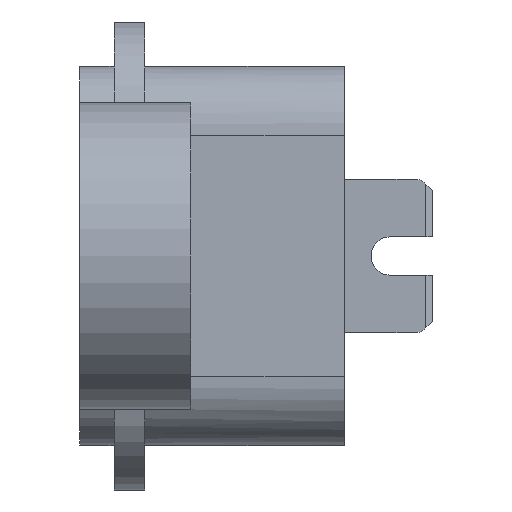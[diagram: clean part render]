
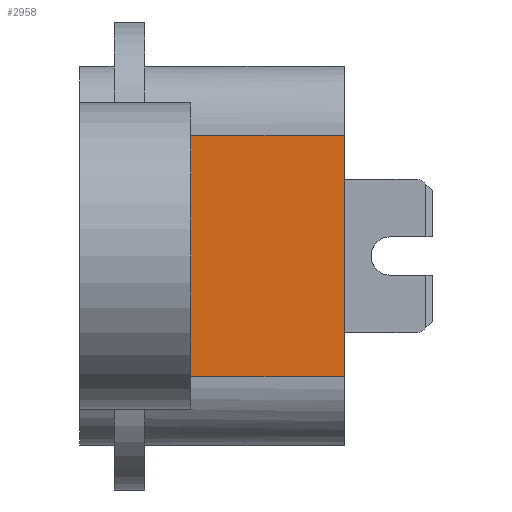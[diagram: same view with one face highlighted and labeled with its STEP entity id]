
A CAD part, left-side view. The second image highlights one B-rep face of the part: STEP entity #2958.
In plain terms, the highlighted planar face has unit normal (-1, 0, 0).
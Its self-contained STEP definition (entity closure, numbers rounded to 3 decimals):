
#2958=ADVANCED_FACE('',(#5791),#4582,.F.);
#4582=PLANE('',#34559);
#5791=FACE_OUTER_BOUND('',#7618,.T.);
#7618=EDGE_LOOP('',(#11688,#11689,#11690,#11691,#11692,#11693));
#11688=ORIENTED_EDGE('',*,*,#23507,.T.);
#11689=ORIENTED_EDGE('',*,*,#23512,.F.);
#11690=ORIENTED_EDGE('',*,*,#22785,.T.);
#11691=ORIENTED_EDGE('',*,*,#23510,.T.);
#11692=ORIENTED_EDGE('',*,*,#23513,.T.);
#11693=ORIENTED_EDGE('',*,*,#23511,.T.);
#18853=VERTEX_POINT('',#46630);
#19310=VERTEX_POINT('',#48818);
#19311=VERTEX_POINT('',#48820);
#19771=VERTEX_POINT('',#50262);
#19772=VERTEX_POINT('',#50264);
#19773=VERTEX_POINT('',#50268);
#22785=EDGE_CURVE('',#19311,#19310,#27401,.T.);
#23507=EDGE_CURVE('',#19772,#19771,#28055,.T.);
#23510=EDGE_CURVE('',#19310,#19773,#28056,.T.);
#23511=EDGE_CURVE('',#18853,#19772,#28057,.T.);
#23512=EDGE_CURVE('',#19311,#19771,#28058,.T.);
#23513=EDGE_CURVE('',#19773,#18853,#28059,.T.);
#27401=LINE('',#48819,#30911);
#28055=LINE('',#50263,#31565);
#28056=LINE('',#50269,#31566);
#28057=LINE('',#50270,#31567);
#28058=LINE('',#50272,#31568);
#28059=LINE('',#50273,#31569);
#30911=VECTOR('',#38092,1.);
#31565=VECTOR('',#39404,1.);
#31566=VECTOR('',#39411,1.);
#31567=VECTOR('',#39412,1.);
#31568=VECTOR('',#39415,1.);
#31569=VECTOR('',#39416,1.);
#34559=AXIS2_PLACEMENT_3D('',#50274,#39417,#39418);
#38092=DIRECTION('',(0.,1.,0.));
#39404=DIRECTION('',(0.,-1.,0.));
#39411=DIRECTION('',(0.,0.,-1.));
#39412=DIRECTION('',(0.,0.,-1.));
#39415=DIRECTION('',(0.,0.,-1.));
#39416=DIRECTION('',(0.,0.,-1.));
#39417=DIRECTION('',(1.,0.,0.));
#39418=DIRECTION('',(0.,0.,1.));
#46630=CARTESIAN_POINT('',(-18.55,4.,-1.285));
#48818=CARTESIAN_POINT('',(-18.55,4.,3.15));
#48819=CARTESIAN_POINT('',(-18.55,0.,3.15));
#48820=CARTESIAN_POINT('',(-18.55,0.,3.15));
#50262=CARTESIAN_POINT('',(-18.55,0.,-3.15));
#50263=CARTESIAN_POINT('',(-18.55,4.,-3.15));
#50264=CARTESIAN_POINT('',(-18.55,4.,-3.15));
#50268=CARTESIAN_POINT('',(-18.55,4.,1.285));
#50269=CARTESIAN_POINT('',(-18.55,4.,3.15));
#50270=CARTESIAN_POINT('',(-18.55,4.,3.15));
#50272=CARTESIAN_POINT('',(-18.55,0.,3.15));
#50273=CARTESIAN_POINT('',(-18.55,4.,3.15));
#50274=CARTESIAN_POINT('',(-18.55,2.,0.));
